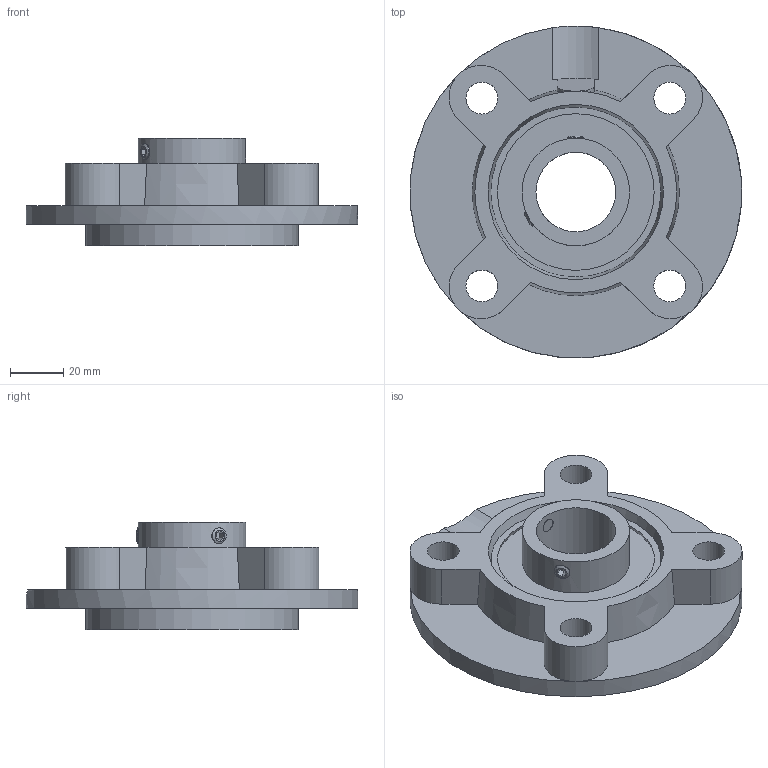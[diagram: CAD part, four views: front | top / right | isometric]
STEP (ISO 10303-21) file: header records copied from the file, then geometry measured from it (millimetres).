
FILE_DESCRIPTION((''),'2;1');
FILE_NAME('\\Ts-tgl068\j-cad-d-base\00.3DCADデータ作成フォルダ\02.フランジ形\BFC200\BFC206.stp','2014-05-08T08:23:24',('btec_1106_2'),(''),'Autodesk Inventor 2012','Autodesk Inventor 2012','');
FILE_SCHEMA(('AUTOMOTIVE_DESIGN { 1 0 10303 214 1 1 1 1 }'));
Length unit declared in the file: millimetre
Products named in the file (3): BFC200; FC206G00; シリーズB [番手=6 ul]
Assembly tree (2 placements, depth 2):
  BFC200
    FC206G00
    シリーズB [番手=6 ul]
Bounding box: 124.85 x 124.9 x 40.3 mm (x, y, z)
Volume: 169298.2 mm3; surface area: 50779.4 mm2
Topology: 2 solids, 2 shells, 74 faces, 181 edges, 119 vertices
Faces by surface type: plane 42, cylinder 19, cone 9, sphere 2, bspline 2
Full cylindrical faces by diameter (mm): 6 x2, 12 x4, 30 x1, 40.5 x1, 80 x1, 125 x1
Entity records: 2277 total; most frequent: CARTESIAN_POINT 568, DIRECTION 346, ORIENTED_EDGE 306, EDGE_CURVE 153, AXIS2_PLACEMENT_3D 138, EDGE_LOOP 112, VERTEX_POINT 109, FACE_OUTER_BOUND 74
